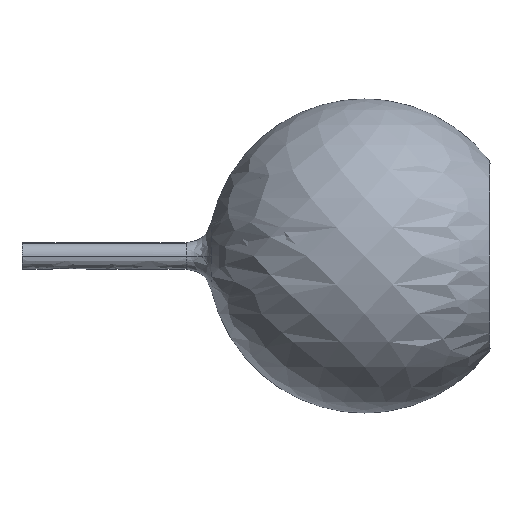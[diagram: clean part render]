
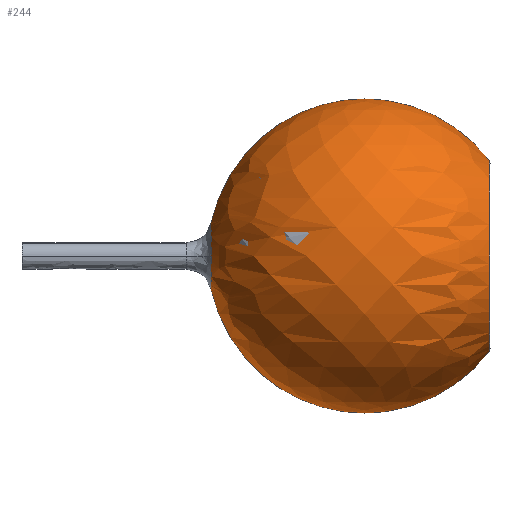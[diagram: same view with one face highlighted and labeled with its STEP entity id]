
A CAD part, left-side view. The second image highlights one B-rep face of the part: STEP entity #244.
In plain terms, the highlighted free-form (B-spline) face has degree [2, 2] with [9, 5] control points.
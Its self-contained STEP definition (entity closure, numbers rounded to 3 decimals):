
#244=ADVANCED_FACE('',(#375),#2398,.T.);
#375=FACE_OUTER_BOUND('',#518,.T.);
#518=EDGE_LOOP('',(#1024,#1025,#1026,#1027,#1028,#1029,#1030,#1031));
#1024=ORIENTED_EDGE('',*,*,#1540,.T.);
#1025=ORIENTED_EDGE('',*,*,#1541,.F.);
#1026=ORIENTED_EDGE('',*,*,#1542,.F.);
#1027=ORIENTED_EDGE('',*,*,#1549,.T.);
#1028=ORIENTED_EDGE('',*,*,#1546,.T.);
#1029=ORIENTED_EDGE('',*,*,#1543,.T.);
#1030=ORIENTED_EDGE('',*,*,#1544,.F.);
#1031=ORIENTED_EDGE('',*,*,#1535,.T.);
#1535=EDGE_CURVE('',#2218,#2210,#1953,.T.);
#1540=EDGE_CURVE('',#2210,#2219,#1958,.T.);
#1541=EDGE_CURVE('',#2212,#2219,#1959,.T.);
#1542=EDGE_CURVE('',#2216,#2212,#1960,.T.);
#1543=EDGE_CURVE('',#2214,#2213,#1961,.T.);
#1544=EDGE_CURVE('',#2218,#2213,#1962,.T.);
#1546=EDGE_CURVE('',#2217,#2214,#1964,.T.);
#1549=EDGE_CURVE('',#2216,#2217,#1967,.T.);
#1953=(
BOUNDED_CURVE()
B_SPLINE_CURVE(2,(#5757,#5758,#5759),.UNSPECIFIED.,.F.,.F.)
B_SPLINE_CURVE_WITH_KNOTS((3,3),(-262.917,0.),.UNSPECIFIED.)
CURVE()
GEOMETRIC_REPRESENTATION_ITEM()
RATIONAL_B_SPLINE_CURVE((1.,0.707,1.))
REPRESENTATION_ITEM('')
);
#1958=(
BOUNDED_CURVE()
B_SPLINE_CURVE(2,(#5776,#5777,#5778),.UNSPECIFIED.,.F.,.F.)
B_SPLINE_CURVE_WITH_KNOTS((3,3),(-525.835,-262.917),
 .UNSPECIFIED.)
CURVE()
GEOMETRIC_REPRESENTATION_ITEM()
RATIONAL_B_SPLINE_CURVE((1.,0.707,1.))
REPRESENTATION_ITEM('')
);
#1959=(
BOUNDED_CURVE()
B_SPLINE_CURVE(2,(#5779,#5780,#5781),.UNSPECIFIED.,.F.,.F.)
B_SPLINE_CURVE_WITH_KNOTS((3,3),(0.,252.021),.UNSPECIFIED.)
CURVE()
GEOMETRIC_REPRESENTATION_ITEM()
RATIONAL_B_SPLINE_CURVE((1.,0.897,1.))
REPRESENTATION_ITEM('')
);
#1960=(
BOUNDED_CURVE()
B_SPLINE_CURVE(2,(#5782,#5783,#5784),.UNSPECIFIED.,.F.,.F.)
B_SPLINE_CURVE_WITH_KNOTS((3,3),(0.,373.083),.UNSPECIFIED.)
CURVE()
GEOMETRIC_REPRESENTATION_ITEM()
RATIONAL_B_SPLINE_CURVE((1.,0.779,1.))
REPRESENTATION_ITEM('')
);
#1961=(
BOUNDED_CURVE()
B_SPLINE_CURVE(2,(#5785,#5786,#5787),.UNSPECIFIED.,.F.,.F.)
B_SPLINE_CURVE_WITH_KNOTS((3,3),(0.,373.083),.UNSPECIFIED.)
CURVE()
GEOMETRIC_REPRESENTATION_ITEM()
RATIONAL_B_SPLINE_CURVE((1.,0.779,1.))
REPRESENTATION_ITEM('')
);
#1962=(
BOUNDED_CURVE()
B_SPLINE_CURVE(2,(#5788,#5789,#5790),.UNSPECIFIED.,.F.,.F.)
B_SPLINE_CURVE_WITH_KNOTS((3,3),(611.917,863.938),
 .UNSPECIFIED.)
CURVE()
GEOMETRIC_REPRESENTATION_ITEM()
RATIONAL_B_SPLINE_CURVE((1.,0.897,1.))
REPRESENTATION_ITEM('')
);
#1964=(
BOUNDED_CURVE()
B_SPLINE_CURVE(2,(#5794,#5795,#5796),.UNSPECIFIED.,.F.,.F.)
B_SPLINE_CURVE_WITH_KNOTS((3,3),(-91.793,0.),.UNSPECIFIED.)
CURVE()
GEOMETRIC_REPRESENTATION_ITEM()
RATIONAL_B_SPLINE_CURVE((1.,0.707,1.))
REPRESENTATION_ITEM('')
);
#1967=(
BOUNDED_CURVE()
B_SPLINE_CURVE(2,(#5805,#5806,#5807),.UNSPECIFIED.,.F.,.F.)
B_SPLINE_CURVE_WITH_KNOTS((3,3),(-91.793,0.),.UNSPECIFIED.)
CURVE()
GEOMETRIC_REPRESENTATION_ITEM()
RATIONAL_B_SPLINE_CURVE((1.,0.707,1.))
REPRESENTATION_ITEM('')
);
#2210=VERTEX_POINT('',#5567);
#2212=VERTEX_POINT('',#5569);
#2213=VERTEX_POINT('',#5570);
#2214=VERTEX_POINT('',#5571);
#2216=VERTEX_POINT('',#5573);
#2217=VERTEX_POINT('',#5574);
#2218=VERTEX_POINT('',#5575);
#2219=VERTEX_POINT('',#5576);
#2398=(
BOUNDED_SURFACE()
B_SPLINE_SURFACE(2,2,((#4571,#4572,#4573,#4574,#4575),(#4576,#4577,#4578,
#4579,#4580),(#4581,#4582,#4583,#4584,#4585),(#4586,#4587,#4588,#4589,#4590),
(#4591,#4592,#4593,#4594,#4595),(#4596,#4597,#4598,#4599,#4600),(#4601,
#4602,#4603,#4604,#4605),(#4606,#4607,#4608,#4609,#4610),(#4611,#4612,#4613,
#4614,#4615)),.UNSPECIFIED.,.T.,.F.,.F.)
B_SPLINE_SURFACE_WITH_KNOTS((3,2,2,2,3),(3,2,3),(0.,431.969,863.938,
1295.907,1727.876),(0.,431.969,863.938),
 .UNSPECIFIED.)
GEOMETRIC_REPRESENTATION_ITEM()
RATIONAL_B_SPLINE_SURFACE(((1.,0.707,1.,0.707,1.),
(0.707,0.5,0.707,0.5,0.707),(1.,0.707,
1.,0.707,1.),(0.707,0.5,0.707,0.5,0.707),
(1.,0.707,1.,0.707,1.),(0.707,0.5,0.707,
0.5,0.707),(1.,0.707,1.,0.707,1.),(0.707,
0.5,0.707,0.5,0.707),(1.,0.707,1.,0.707,
1.)))
REPRESENTATION_ITEM('')
SURFACE()
);
#4571=CARTESIAN_POINT('',(-275.,0.,0.));
#4572=CARTESIAN_POINT('',(-275.,-275.,0.));
#4573=CARTESIAN_POINT('',(0.,-275.,0.));
#4574=CARTESIAN_POINT('',(275.,-275.,0.));
#4575=CARTESIAN_POINT('',(275.,0.,0.));
#4576=CARTESIAN_POINT('',(-275.,0.,0.));
#4577=CARTESIAN_POINT('',(-275.,-275.,-275.));
#4578=CARTESIAN_POINT('',(0.,-275.,-275.));
#4579=CARTESIAN_POINT('',(275.,-275.,-275.));
#4580=CARTESIAN_POINT('',(275.,0.,0.));
#4581=CARTESIAN_POINT('',(-275.,0.,0.));
#4582=CARTESIAN_POINT('',(-275.,0.,-275.));
#4583=CARTESIAN_POINT('',(0.,0.,-275.));
#4584=CARTESIAN_POINT('',(275.,0.,-275.));
#4585=CARTESIAN_POINT('',(275.,0.,0.));
#4586=CARTESIAN_POINT('',(-275.,0.,0.));
#4587=CARTESIAN_POINT('',(-275.,275.,-275.));
#4588=CARTESIAN_POINT('',(0.,275.,-275.));
#4589=CARTESIAN_POINT('',(275.,275.,-275.));
#4590=CARTESIAN_POINT('',(275.,0.,0.));
#4591=CARTESIAN_POINT('',(-275.,0.,0.));
#4592=CARTESIAN_POINT('',(-275.,275.,0.));
#4593=CARTESIAN_POINT('',(0.,275.,0.));
#4594=CARTESIAN_POINT('',(275.,275.,0.));
#4595=CARTESIAN_POINT('',(275.,0.,0.));
#4596=CARTESIAN_POINT('',(-275.,0.,0.));
#4597=CARTESIAN_POINT('',(-275.,275.,275.));
#4598=CARTESIAN_POINT('',(0.,275.,275.));
#4599=CARTESIAN_POINT('',(275.,275.,275.));
#4600=CARTESIAN_POINT('',(275.,0.,0.));
#4601=CARTESIAN_POINT('',(-275.,0.,0.));
#4602=CARTESIAN_POINT('',(-275.,0.,275.));
#4603=CARTESIAN_POINT('',(0.,0.,275.));
#4604=CARTESIAN_POINT('',(275.,0.,275.));
#4605=CARTESIAN_POINT('',(275.,0.,0.));
#4606=CARTESIAN_POINT('',(-275.,0.,0.));
#4607=CARTESIAN_POINT('',(-275.,-275.,275.));
#4608=CARTESIAN_POINT('',(0.,-275.,275.));
#4609=CARTESIAN_POINT('',(275.,-275.,275.));
#4610=CARTESIAN_POINT('',(275.,0.,0.));
#4611=CARTESIAN_POINT('',(-275.,0.,0.));
#4612=CARTESIAN_POINT('',(-275.,-275.,0.));
#4613=CARTESIAN_POINT('',(0.,-275.,0.));
#4614=CARTESIAN_POINT('',(275.,-275.,0.));
#4615=CARTESIAN_POINT('',(275.,0.,0.));
#5567=CARTESIAN_POINT('',(0.,-218.196,-167.378));
#5569=CARTESIAN_POINT('',(-275.,0.,0.));
#5570=CARTESIAN_POINT('',(275.,0.,0.));
#5571=CARTESIAN_POINT('',(58.438,268.719,0.));
#5573=CARTESIAN_POINT('',(-58.438,268.719,0.));
#5574=CARTESIAN_POINT('',(0.,268.719,-58.438));
#5575=CARTESIAN_POINT('',(167.378,-218.196,0.));
#5576=CARTESIAN_POINT('',(-167.378,-218.196,0.));
#5757=CARTESIAN_POINT('',(167.378,-218.196,0.));
#5758=CARTESIAN_POINT('',(167.378,-218.196,-167.378));
#5759=CARTESIAN_POINT('',(0.,-218.196,-167.378));
#5776=CARTESIAN_POINT('',(0.,-218.196,-167.378));
#5777=CARTESIAN_POINT('',(-167.378,-218.196,-167.378));
#5778=CARTESIAN_POINT('',(-167.378,-218.196,0.));
#5779=CARTESIAN_POINT('',(-275.,0.,0.));
#5780=CARTESIAN_POINT('',(-275.,-135.639,0.));
#5781=CARTESIAN_POINT('',(-167.378,-218.196,0.));
#5782=CARTESIAN_POINT('',(-58.438,268.719,0.));
#5783=CARTESIAN_POINT('',(-275.,221.624,0.));
#5784=CARTESIAN_POINT('',(-275.,0.,0.));
#5785=CARTESIAN_POINT('',(58.438,268.719,0.));
#5786=CARTESIAN_POINT('',(275.,221.624,0.));
#5787=CARTESIAN_POINT('',(275.,0.,0.));
#5788=CARTESIAN_POINT('',(167.378,-218.196,0.));
#5789=CARTESIAN_POINT('',(275.,-135.639,0.));
#5790=CARTESIAN_POINT('',(275.,0.,0.));
#5794=CARTESIAN_POINT('',(0.,268.719,-58.438));
#5795=CARTESIAN_POINT('',(58.438,268.719,-58.438));
#5796=CARTESIAN_POINT('',(58.438,268.719,0.));
#5805=CARTESIAN_POINT('',(-58.438,268.719,0.));
#5806=CARTESIAN_POINT('',(-58.438,268.719,-58.438));
#5807=CARTESIAN_POINT('',(0.,268.719,-58.438));
